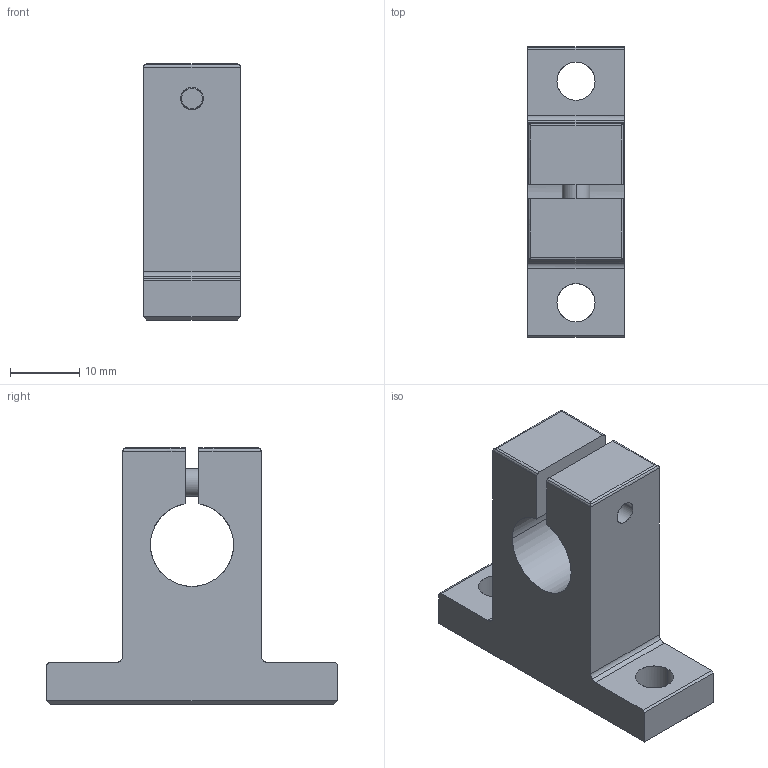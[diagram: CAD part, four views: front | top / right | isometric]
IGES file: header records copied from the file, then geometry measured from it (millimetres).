
Global section: file name: No Iges File Name specified; native system: AutoDesk Inventor R10; preprocessor: AutoDesk Inventor Iges Exporter R10; author: No Author specified; organization: No Organization specified; date: 20101214.152919; units: millimetre
Bounding box: 14 x 42 x 37 mm (x, y, z)
Surface area: 4823.5 mm2 (no closed solid volume)
Topology: 0 solids, 0 shells, 69 faces, 412 edges, 410 vertices
Faces by surface type: bspline 69
